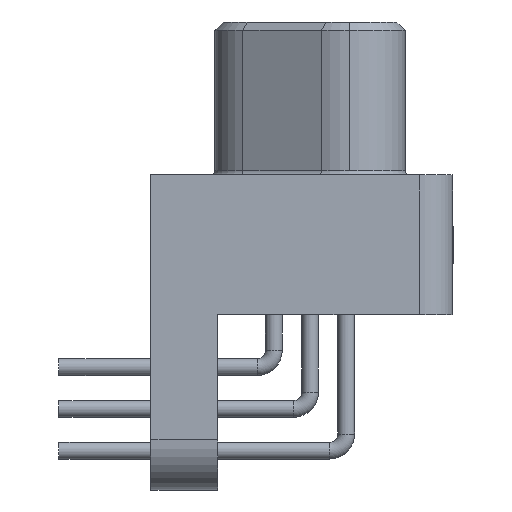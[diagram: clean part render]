
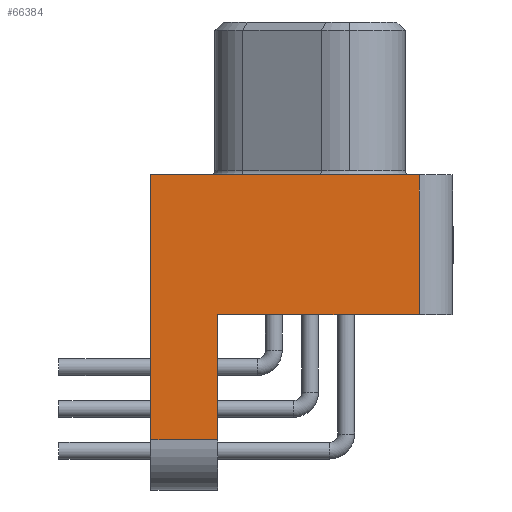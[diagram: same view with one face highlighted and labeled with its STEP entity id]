
A CAD part, left-side view. The second image highlights one B-rep face of the part: STEP entity #66384.
In plain terms, the highlighted planar face has unit normal (-1, 0, 0).
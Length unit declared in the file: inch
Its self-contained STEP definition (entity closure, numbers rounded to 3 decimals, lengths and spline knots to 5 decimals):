
#1379 = EDGE_CURVE ( 'NONE', #66812, #12613, #57620, .T. ) ;
#1390 = EDGE_LOOP ( 'NONE', ( #39693, #29813, #3734, #19778, #25745, #63093 ) ) ;
#2271 = CARTESIAN_POINT ( 'NONE',  ( -0.8625, -0.1306, -0.125 ) ) ;
#3734 = ORIENTED_EDGE ( 'NONE', *, *, #15071, .T. ) ;
#3786 = PLANE ( 'NONE',  #18704 ) ;
#3886 = DIRECTION ( 'NONE',  ( 0., -1., 0. ) ) ;
#4124 = LINE ( 'NONE', #9269, #27992 ) ;
#5855 = VECTOR ( 'NONE', #3886, 39.37008 ) ;
#7968 = LINE ( 'NONE', #74162, #14426 ) ;
#9269 = CARTESIAN_POINT ( 'NONE',  ( -0.8625, 0.1904, -0.335 ) ) ;
#12613 = VERTEX_POINT ( 'NONE', #71225 ) ;
#14236 = VERTEX_POINT ( 'NONE', #75279 ) ;
#14426 = VECTOR ( 'NONE', #43839, 39.37008 ) ;
#15071 = EDGE_CURVE ( 'NONE', #21671, #66812, #34100, .T. ) ;
#15900 = VECTOR ( 'NONE', #76872, 39.37008 ) ;
#17274 = CARTESIAN_POINT ( 'NONE',  ( -0.8625, 0.1304, 0.042 ) ) ;
#18704 = AXIS2_PLACEMENT_3D ( 'NONE', #17274, #48682, #60300 ) ;
#19778 = ORIENTED_EDGE ( 'NONE', *, *, #1379, .T. ) ;
#21671 = VERTEX_POINT ( 'NONE', #76051 ) ;
#22045 = VERTEX_POINT ( 'NONE', #73859 ) ;
#25745 = ORIENTED_EDGE ( 'NONE', *, *, #35827, .F. ) ;
#26726 = LINE ( 'NONE', #56268, #51519 ) ;
#27992 = VECTOR ( 'NONE', #57480, 39.37008 ) ;
#29036 = DIRECTION ( 'NONE',  ( 0., -1., 0. ) ) ;
#29813 = ORIENTED_EDGE ( 'NONE', *, *, #70560, .T. ) ;
#30063 = CARTESIAN_POINT ( 'NONE',  ( -0.8625, -0.1306, 0.042 ) ) ;
#34100 = LINE ( 'NONE', #77276, #15900 ) ;
#34152 = VERTEX_POINT ( 'NONE', #30063 ) ;
#35827 = EDGE_CURVE ( 'NONE', #34152, #12613, #26726, .T. ) ;
#39693 = ORIENTED_EDGE ( 'NONE', *, *, #75930, .F. ) ;
#43839 = DIRECTION ( 'NONE',  ( 0., 1., 0. ) ) ;
#48682 = DIRECTION ( 'NONE',  ( -1., 0., 0. ) ) ;
#51519 = VECTOR ( 'NONE', #69442, 39.37008 ) ;
#53803 = LINE ( 'NONE', #59013, #70557 ) ;
#54038 = EDGE_CURVE ( 'NONE', #34152, #22045, #7968, .T. ) ;
#56268 = CARTESIAN_POINT ( 'NONE',  ( -0.8625, -0.1306, 0.042 ) ) ;
#57480 = DIRECTION ( 'NONE',  ( 0., 0., 1. ) ) ;
#57620 = LINE ( 'NONE', #2271, #5855 ) ;
#59013 = CARTESIAN_POINT ( 'NONE',  ( -0.8625, 0.1104, -0.275 ) ) ;
#59527 = FACE_OUTER_BOUND ( 'NONE', #1390, .T. ) ;
#60300 = DIRECTION ( 'NONE',  ( 0., -1., 0. ) ) ;
#63093 = ORIENTED_EDGE ( 'NONE', *, *, #54038, .T. ) ;
#66384 = ADVANCED_FACE ( 'NONE', ( #59527 ), #3786, .T. ) ;
#66812 = VERTEX_POINT ( 'NONE', #75181 ) ;
#69442 = DIRECTION ( 'NONE',  ( 0., 0., -1. ) ) ;
#70557 = VECTOR ( 'NONE', #29036, 39.37008 ) ;
#70560 = EDGE_CURVE ( 'NONE', #14236, #21671, #53803, .T. ) ;
#71225 = CARTESIAN_POINT ( 'NONE',  ( -0.8625, -0.1306, -0.125 ) ) ;
#73859 = CARTESIAN_POINT ( 'NONE',  ( -0.8625, 0.1904, 0.042 ) ) ;
#74162 = CARTESIAN_POINT ( 'NONE',  ( -0.8625, -0.1306, 0.042 ) ) ;
#75181 = CARTESIAN_POINT ( 'NONE',  ( -0.8625, 0.1104, -0.125 ) ) ;
#75279 = CARTESIAN_POINT ( 'NONE',  ( -0.8625, 0.1904, -0.275 ) ) ;
#75930 = EDGE_CURVE ( 'NONE', #14236, #22045, #4124, .T. ) ;
#76051 = CARTESIAN_POINT ( 'NONE',  ( -0.8625, 0.1104, -0.275 ) ) ;
#76872 = DIRECTION ( 'NONE',  ( 0., 0., 1. ) ) ;
#77276 = CARTESIAN_POINT ( 'NONE',  ( -0.8625, 0.1104, -0.335 ) ) ;
